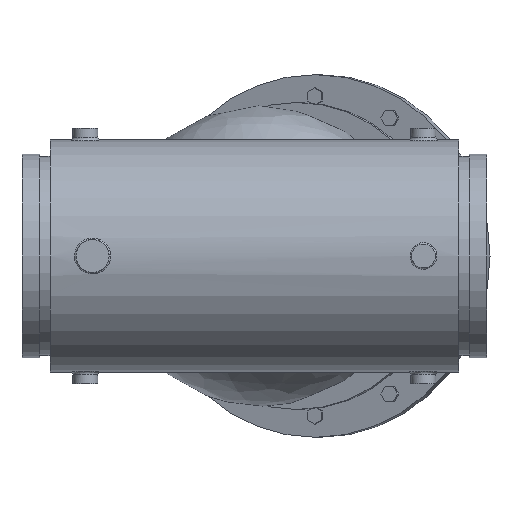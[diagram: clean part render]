
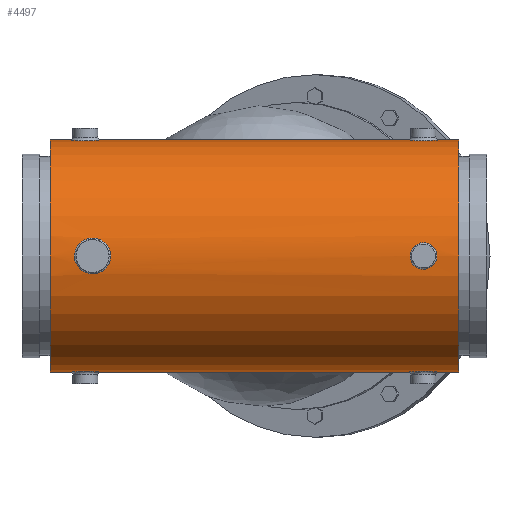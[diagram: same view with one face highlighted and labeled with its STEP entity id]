
A CAD part, front view. The second image highlights one B-rep face of the part: STEP entity #4497.
In plain terms, the highlighted cylindrical face has radius 124.968 mm (diameter 249.936 mm), a full revolution.
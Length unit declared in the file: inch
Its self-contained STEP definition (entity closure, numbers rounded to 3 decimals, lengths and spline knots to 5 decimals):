
#316=FACE_OUTER_BOUND('',#558,.T.);
#558=EDGE_LOOP('',(#2995,#2996,#2997,#2998,#2999,#3000,#3001,#3002,#3003,
#3004,#3005,#3006,#3007,#3008,#3009));
#848=CIRCLE('',#4761,4.92);
#849=CIRCLE('',#4762,4.92);
#850=CIRCLE('',#4763,4.92);
#851=CIRCLE('',#4764,4.92);
#924=B_SPLINE_CURVE_WITH_KNOTS('',3,(#6234,#6235,#6236,#6237,#6238,#6239,
#6240),.UNSPECIFIED.,.F.,.F.,(4,1,1,1,4),(-10.73164,-9.96509,
-9.19855,-8.432,-8.04872),.UNSPECIFIED.);
#925=B_SPLINE_CURVE_WITH_KNOTS('',3,(#6242,#6243,#6244,#6245,#6246,#6247,
#6248,#6249),.UNSPECIFIED.,.F.,.F.,(4,1,1,1,1,4),(-2.68291,-2.55515,
-2.04412,-1.53309,-0.76655,0.),.UNSPECIFIED.);
#926=B_SPLINE_CURVE_WITH_KNOTS('',3,(#6255,#6256,#6257,#6258,#6259,#6260,
#6261,#6262,#6263,#6264,#6265,#6266),.UNSPECIFIED.,.F.,.F.,(4,1,1,1,1,1,
1,1,1,4),(-8.04872,-7.66546,-7.15442,-6.13236,
-5.62133,-5.1103,-4.59927,-4.08824,
-3.06618,-2.68291),.UNSPECIFIED.);
#927=B_SPLINE_CURVE_WITH_KNOTS('',3,(#6267,#6268,#6269,#6270,#6271,#6272,
#6273,#6274,#6275,#6276,#6277),.UNSPECIFIED.,.F.,.F.,(4,1,1,1,1,1,1,1,4),
(-5.74495,-5.47139,-5.10663,-4.37711,
-4.01236,-3.28284,-2.55332,-2.18856,
-1.91498),.UNSPECIFIED.);
#967=LINE('',#6230,#1462);
#968=LINE('',#6232,#1463);
#969=LINE('',#6251,#1464);
#970=LINE('',#6279,#1465);
#1462=VECTOR('',#5087,4.92);
#1463=VECTOR('',#5088,4.92);
#1464=VECTOR('',#5089,4.92);
#1465=VECTOR('',#5094,4.92);
#1957=VERTEX_POINT('',#6228);
#1958=VERTEX_POINT('',#6229);
#1959=VERTEX_POINT('',#6231);
#1960=VERTEX_POINT('',#6233);
#1961=VERTEX_POINT('',#6241);
#1962=VERTEX_POINT('',#6250);
#1963=VERTEX_POINT('',#6252);
#1964=VERTEX_POINT('',#6278);
#1965=VERTEX_POINT('',#6280);
#2378=EDGE_CURVE('',#1957,#1958,#967,.T.);
#2379=EDGE_CURVE('',#1957,#1959,#968,.T.);
#2380=EDGE_CURVE('',#1960,#1959,#924,.T.);
#2381=EDGE_CURVE('',#1961,#1960,#925,.T.);
#2382=EDGE_CURVE('',#1961,#1962,#969,.T.);
#2383=EDGE_CURVE('',#1962,#1963,#848,.T.);
#2384=EDGE_CURVE('',#1963,#1962,#849,.T.);
#2385=EDGE_CURVE('',#1959,#1961,#926,.T.);
#2386=EDGE_CURVE('',#1958,#1957,#927,.T.);
#2387=EDGE_CURVE('',#1964,#1958,#970,.T.);
#2388=EDGE_CURVE('',#1965,#1964,#850,.T.);
#2389=EDGE_CURVE('',#1964,#1965,#851,.T.);
#2995=ORIENTED_EDGE('',*,*,#2378,.F.);
#2996=ORIENTED_EDGE('',*,*,#2379,.T.);
#2997=ORIENTED_EDGE('',*,*,#2380,.F.);
#2998=ORIENTED_EDGE('',*,*,#2381,.F.);
#2999=ORIENTED_EDGE('',*,*,#2382,.T.);
#3000=ORIENTED_EDGE('',*,*,#2383,.T.);
#3001=ORIENTED_EDGE('',*,*,#2384,.T.);
#3002=ORIENTED_EDGE('',*,*,#2382,.F.);
#3003=ORIENTED_EDGE('',*,*,#2385,.F.);
#3004=ORIENTED_EDGE('',*,*,#2379,.F.);
#3005=ORIENTED_EDGE('',*,*,#2386,.F.);
#3006=ORIENTED_EDGE('',*,*,#2387,.F.);
#3007=ORIENTED_EDGE('',*,*,#2388,.F.);
#3008=ORIENTED_EDGE('',*,*,#2389,.F.);
#3009=ORIENTED_EDGE('',*,*,#2387,.T.);
#4229=CYLINDRICAL_SURFACE('',#4760,4.92);
#4497=ADVANCED_FACE('',(#316),#4229,.T.);
#4760=AXIS2_PLACEMENT_3D('',#6227,#5085,#5086);
#4761=AXIS2_PLACEMENT_3D('',#6253,#5090,#5091);
#4762=AXIS2_PLACEMENT_3D('',#6254,#5092,#5093);
#4763=AXIS2_PLACEMENT_3D('',#6281,#5095,#5096);
#4764=AXIS2_PLACEMENT_3D('',#6282,#5097,#5098);
#5085=DIRECTION('center_axis',(1.,0.,0.));
#5086=DIRECTION('ref_axis',(0.,1.,0.));
#5087=DIRECTION('',(1.,0.,0.));
#5088=DIRECTION('',(-1.,0.,0.));
#5089=DIRECTION('',(-1.,0.,0.));
#5090=DIRECTION('center_axis',(1.,0.,0.));
#5091=DIRECTION('ref_axis',(0.,0.,-1.));
#5092=DIRECTION('center_axis',(1.,0.,0.));
#5093=DIRECTION('ref_axis',(0.,0.,-1.));
#5094=DIRECTION('',(-1.,0.,0.));
#5095=DIRECTION('center_axis',(1.,0.,0.));
#5096=DIRECTION('ref_axis',(0.,0.,-1.));
#5097=DIRECTION('center_axis',(1.,0.,0.));
#5098=DIRECTION('ref_axis',(0.,0.,-1.));
#6227=CARTESIAN_POINT('Origin',(0.,0.,
0.));
#6228=CARTESIAN_POINT('',(6.587,-4.92,0.));
#6229=CARTESIAN_POINT('',(7.727,-4.92,0.));
#6230=CARTESIAN_POINT('',(0.,-4.92,0.));
#6231=CARTESIAN_POINT('',(-6.087,-4.92,0.));
#6232=CARTESIAN_POINT('',(0.,-4.92,0.));
#6233=CARTESIAN_POINT('',(-6.857,-4.86107,-0.7592));
#6234=CARTESIAN_POINT('Ctrl Pts',(-6.857,-4.86107,-0.7592));
#6235=CARTESIAN_POINT('Ctrl Pts',(-6.74164,-4.86107,-0.7592));
#6236=CARTESIAN_POINT('Ctrl Pts',(-6.51106,-4.86961,-0.70711));
#6237=CARTESIAN_POINT('Ctrl Pts',(-6.23464,-4.89815,-0.48971));
#6238=CARTESIAN_POINT('Ctrl Pts',(-6.10627,-4.91712,-0.22749));
#6239=CARTESIAN_POINT('Ctrl Pts',(-6.08713,-4.91995,-0.05692));
#6240=CARTESIAN_POINT('Ctrl Pts',(-6.08715,-4.91994,-0.00005));
#6241=CARTESIAN_POINT('',(-7.627,-4.92,0.));
#6242=CARTESIAN_POINT('Ctrl Pts',(-7.62704,-4.92002,0.00003));
#6243=CARTESIAN_POINT('Ctrl Pts',(-7.62703,-4.92001,-0.01894));
#6244=CARTESIAN_POINT('Ctrl Pts',(-7.62337,-4.91945,-0.11379));
#6245=CARTESIAN_POINT('Ctrl Pts',(-7.58448,-4.91352,-0.28183));
#6246=CARTESIAN_POINT('Ctrl Pts',(-7.44856,-4.89493,-0.51376));
#6247=CARTESIAN_POINT('Ctrl Pts',(-7.203,-4.86964,-0.70717));
#6248=CARTESIAN_POINT('Ctrl Pts',(-6.97236,-4.86107,-0.7592));
#6249=CARTESIAN_POINT('Ctrl Pts',(-6.857,-4.86107,-0.7592));
#6250=CARTESIAN_POINT('',(-8.657,-4.92,0.));
#6251=CARTESIAN_POINT('',(0.,-4.92,0.));
#6252=CARTESIAN_POINT('',(-8.657,4.92,0.));
#6253=CARTESIAN_POINT('Origin',(-8.657,0.,0.));
#6254=CARTESIAN_POINT('Origin',(-8.657,0.,0.));
#6255=CARTESIAN_POINT('Ctrl Pts',(-6.08715,-4.91994,-0.00005));
#6256=CARTESIAN_POINT('Ctrl Pts',(-6.08716,-4.91994,0.05682));
#6257=CARTESIAN_POINT('Ctrl Pts',(-6.10214,-4.91773,0.18954));
#6258=CARTESIAN_POINT('Ctrl Pts',(-6.20858,-4.90202,0.45704));
#6259=CARTESIAN_POINT('Ctrl Pts',(-6.4429,-4.87461,0.67192));
#6260=CARTESIAN_POINT('Ctrl Pts',(-6.74036,-4.86064,0.7619));
#6261=CARTESIAN_POINT('Ctrl Pts',(-6.97366,-4.86064,0.7621));
#6262=CARTESIAN_POINT('Ctrl Pts',(-7.19636,-4.87107,0.69407));
#6263=CARTESIAN_POINT('Ctrl Pts',(-7.45293,-4.89414,0.52194));
#6264=CARTESIAN_POINT('Ctrl Pts',(-7.60356,-4.9165,0.2657));
#6265=CARTESIAN_POINT('Ctrl Pts',(-7.62709,-4.92003,0.05695));
#6266=CARTESIAN_POINT('Ctrl Pts',(-7.62704,-4.92002,0.00003));
#6267=CARTESIAN_POINT('Ctrl Pts',(7.7268,-4.91994,-0.00003));
#6268=CARTESIAN_POINT('Ctrl Pts',(7.72688,-4.91998,0.04202));
#6269=CARTESIAN_POINT('Ctrl Pts',(7.71608,-4.91887,0.14017));
#6270=CARTESIAN_POINT('Ctrl Pts',(7.63709,-4.91009,0.3384));
#6271=CARTESIAN_POINT('Ctrl Pts',(7.46337,-4.89527,0.49725));
#6272=CARTESIAN_POINT('Ctrl Pts',(7.18831,-4.88553,0.58094));
#6273=CARTESIAN_POINT('Ctrl Pts',(6.8941,-4.89114,0.53789));
#6274=CARTESIAN_POINT('Ctrl Pts',(6.67688,-4.91022,0.33815));
#6275=CARTESIAN_POINT('Ctrl Pts',(6.59816,-4.91876,0.14026));
#6276=CARTESIAN_POINT('Ctrl Pts',(6.5871,-4.91996,0.04207));
#6277=CARTESIAN_POINT('Ctrl Pts',(6.58709,-4.91997,-0.00001));
#6278=CARTESIAN_POINT('',(8.657,-4.92,0.));
#6279=CARTESIAN_POINT('',(0.,-4.92,0.));
#6280=CARTESIAN_POINT('',(8.657,4.92,0.));
#6281=CARTESIAN_POINT('Origin',(8.657,0.,0.));
#6282=CARTESIAN_POINT('Origin',(8.657,0.,0.));
